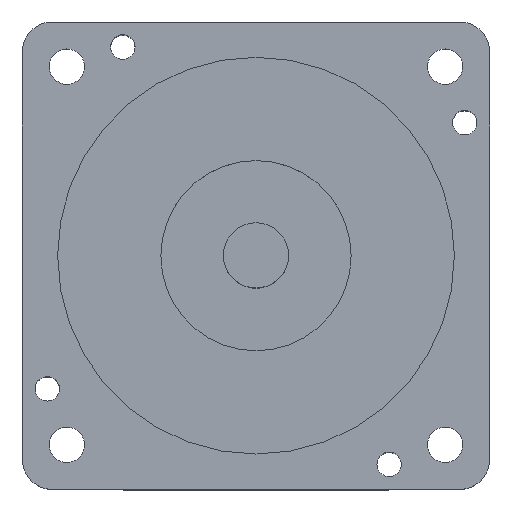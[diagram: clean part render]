
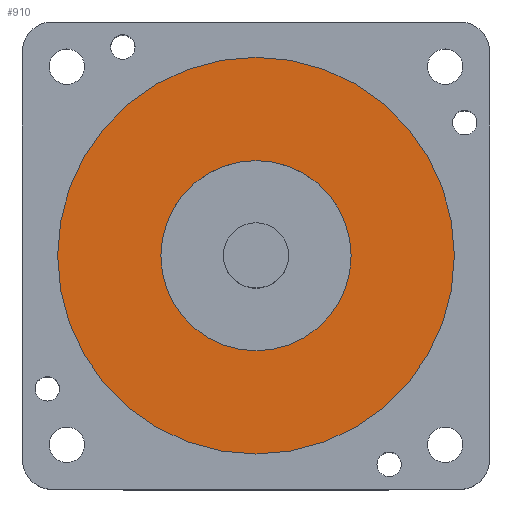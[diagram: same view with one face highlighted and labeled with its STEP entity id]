
A CAD part, top view. The second image highlights one B-rep face of the part: STEP entity #910.
In plain terms, the highlighted planar face has unit normal (0, 0, 1).
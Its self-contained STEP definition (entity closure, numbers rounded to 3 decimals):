
#210=FACE_BOUND('',#314,.T.);
#247=FACE_OUTER_BOUND('',#313,.T.);
#313=EDGE_LOOP('',(#810));
#314=EDGE_LOOP('',(#811));
#377=CIRCLE('',#1029,36.5);
#378=CIRCLE('',#1031,17.5);
#463=VERTEX_POINT('',#1560);
#464=VERTEX_POINT('',#1564);
#582=EDGE_CURVE('',#463,#463,#377,.T.);
#583=EDGE_CURVE('',#464,#464,#378,.T.);
#810=ORIENTED_EDGE('',*,*,#582,.T.);
#811=ORIENTED_EDGE('',*,*,#583,.F.);
#872=PLANE('',#1030);
#910=ADVANCED_FACE('',(#247,#210),#872,.T.);
#1029=AXIS2_PLACEMENT_3D('',#1562,#1285,#1286);
#1030=AXIS2_PLACEMENT_3D('',#1563,#1287,#1288);
#1031=AXIS2_PLACEMENT_3D('',#1565,#1289,#1290);
#1285=DIRECTION('center_axis',(0.,0.,1.));
#1286=DIRECTION('ref_axis',(1.,0.,0.));
#1287=DIRECTION('center_axis',(0.,0.,1.));
#1288=DIRECTION('ref_axis',(1.,0.,0.));
#1289=DIRECTION('center_axis',(0.,0.,1.));
#1290=DIRECTION('ref_axis',(1.,0.,0.));
#1560=CARTESIAN_POINT('',(36.5,0.,10.));
#1562=CARTESIAN_POINT('Origin',(0.,0.,10.));
#1563=CARTESIAN_POINT('Origin',(0.,0.,10.));
#1564=CARTESIAN_POINT('',(-17.5,0.,10.));
#1565=CARTESIAN_POINT('Origin',(0.,0.,10.));
